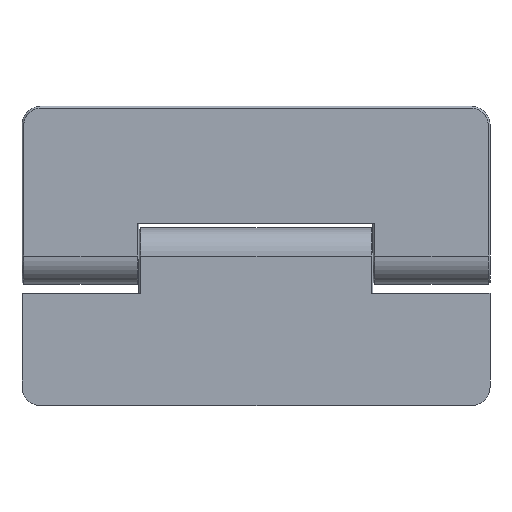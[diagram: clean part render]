
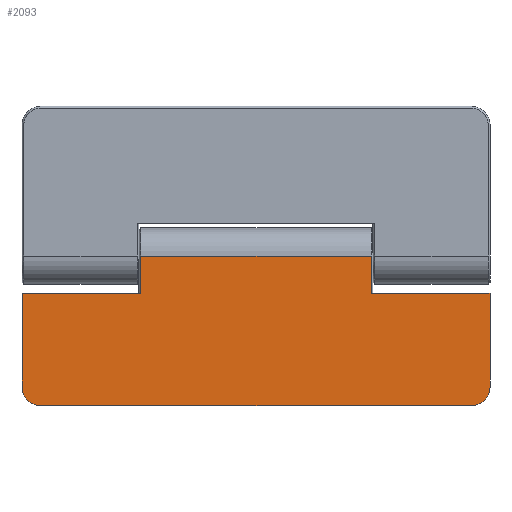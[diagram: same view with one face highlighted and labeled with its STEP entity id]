
A CAD part, front view. The second image highlights one B-rep face of the part: STEP entity #2093.
In plain terms, the highlighted planar face has unit normal (0, -1, 0).
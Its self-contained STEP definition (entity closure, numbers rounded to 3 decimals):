
#31 = ORIENTED_EDGE ( 'NONE', *, *, #1841, .F. ) ;
#86 = CARTESIAN_POINT ( 'NONE',  ( -25., -3., -14. ) ) ;
#87 = ORIENTED_EDGE ( 'NONE', *, *, #1325, .F. ) ;
#89 = DIRECTION ( 'NONE',  ( 0., 0., -1. ) ) ;
#95 = EDGE_CURVE ( 'NONE', #176, #1191, #1238, .T. ) ;
#118 = CARTESIAN_POINT ( 'NONE',  ( -23., -3., -16. ) ) ;
#120 = DIRECTION ( 'NONE',  ( 1., 0., 0. ) ) ;
#167 = DIRECTION ( 'NONE',  ( 0., -1., 0. ) ) ;
#172 = VERTEX_POINT ( 'NONE', #707 ) ;
#175 = CIRCLE ( 'NONE', #316, 2. ) ;
#176 = VERTEX_POINT ( 'NONE', #118 ) ;
#186 = EDGE_CURVE ( 'NONE', #172, #782, #2469, .T. ) ;
#190 = ORIENTED_EDGE ( 'NONE', *, *, #95, .F. ) ;
#227 = FACE_OUTER_BOUND ( 'NONE', #2339, .T. ) ;
#261 = ORIENTED_EDGE ( 'NONE', *, *, #2487, .T. ) ;
#264 = DIRECTION ( 'NONE',  ( 0., 1., 0. ) ) ;
#269 = CARTESIAN_POINT ( 'NONE',  ( -12.3, -3., -4. ) ) ;
#305 = DIRECTION ( 'NONE',  ( -1., 0., 0. ) ) ;
#316 = AXIS2_PLACEMENT_3D ( 'NONE', #2377, #264, #1431 ) ;
#323 = AXIS2_PLACEMENT_3D ( 'NONE', #757, #167, #1502 ) ;
#389 = DIRECTION ( 'NONE',  ( 1., 0., 0. ) ) ;
#463 = ORIENTED_EDGE ( 'NONE', *, *, #698, .T. ) ;
#473 = VECTOR ( 'NONE', #89, 1000. ) ;
#494 = VERTEX_POINT ( 'NONE', #1329 ) ;
#513 = VECTOR ( 'NONE', #1621, 1000. ) ;
#571 = VERTEX_POINT ( 'NONE', #2311 ) ;
#594 = VECTOR ( 'NONE', #305, 1000. ) ;
#608 = VERTEX_POINT ( 'NONE', #762 ) ;
#628 = CARTESIAN_POINT ( 'NONE',  ( -12.3, -3., -4. ) ) ;
#682 = LINE ( 'NONE', #2398, #594 ) ;
#683 = CARTESIAN_POINT ( 'NONE',  ( 25., -3., -14. ) ) ;
#698 = EDGE_CURVE ( 'NONE', #814, #571, #2028, .T. ) ;
#707 = CARTESIAN_POINT ( 'NONE',  ( -25., -3., -4. ) ) ;
#712 = EDGE_CURVE ( 'NONE', #870, #571, #1867, .T. ) ;
#757 = CARTESIAN_POINT ( 'NONE',  ( -23., -3., -14. ) ) ;
#762 = CARTESIAN_POINT ( 'NONE',  ( 25., -3., -4. ) ) ;
#782 = VERTEX_POINT ( 'NONE', #628 ) ;
#814 = VERTEX_POINT ( 'NONE', #2344 ) ;
#820 = LINE ( 'NONE', #269, #473 ) ;
#870 = VERTEX_POINT ( 'NONE', #954 ) ;
#886 = LINE ( 'NONE', #683, #513 ) ;
#922 = ORIENTED_EDGE ( 'NONE', *, *, #1276, .F. ) ;
#954 = CARTESIAN_POINT ( 'NONE',  ( -12.3, -3., 0. ) ) ;
#1003 = VECTOR ( 'NONE', #120, 1000. ) ;
#1048 = ORIENTED_EDGE ( 'NONE', *, *, #186, .F. ) ;
#1063 = DIRECTION ( 'NONE',  ( 0., 0., -1. ) ) ;
#1183 = CARTESIAN_POINT ( 'NONE',  ( 23., -3., -16. ) ) ;
#1191 = VERTEX_POINT ( 'NONE', #86 ) ;
#1238 = CIRCLE ( 'NONE', #1257, 2. ) ;
#1257 = AXIS2_PLACEMENT_3D ( 'NONE', #1852, #2257, #1063 ) ;
#1276 = EDGE_CURVE ( 'NONE', #494, #1622, #175, .T. ) ;
#1314 = LINE ( 'NONE', #1806, #2447 ) ;
#1325 = EDGE_CURVE ( 'NONE', #1622, #176, #682, .T. ) ;
#1329 = CARTESIAN_POINT ( 'NONE',  ( 25., -3., -14. ) ) ;
#1337 = CARTESIAN_POINT ( 'NONE',  ( 12.5, -3., 0. ) ) ;
#1431 = DIRECTION ( 'NONE',  ( 0., 0., -1. ) ) ;
#1502 = DIRECTION ( 'NONE',  ( 0., 0., -1. ) ) ;
#1520 = LINE ( 'NONE', #2027, #1003 ) ;
#1621 = DIRECTION ( 'NONE',  ( 0., 0., -1. ) ) ;
#1622 = VERTEX_POINT ( 'NONE', #1183 ) ;
#1624 = VECTOR ( 'NONE', #1658, 1000. ) ;
#1658 = DIRECTION ( 'NONE',  ( 1., 0., 0. ) ) ;
#1733 = CARTESIAN_POINT ( 'NONE',  ( 12.3, -3., -14. ) ) ;
#1801 = VECTOR ( 'NONE', #2488, 1000. ) ;
#1806 = CARTESIAN_POINT ( 'NONE',  ( -25., -3., -4. ) ) ;
#1841 = EDGE_CURVE ( 'NONE', #608, #494, #886, .T. ) ;
#1842 = EDGE_CURVE ( 'NONE', #814, #608, #1520, .T. ) ;
#1851 = ORIENTED_EDGE ( 'NONE', *, *, #2410, .F. ) ;
#1852 = CARTESIAN_POINT ( 'NONE',  ( -23., -3., -14. ) ) ;
#1867 = LINE ( 'NONE', #1337, #2208 ) ;
#1918 = PLANE ( 'NONE',  #323 ) ;
#1998 = DIRECTION ( 'NONE',  ( 0., 0., 1. ) ) ;
#2027 = CARTESIAN_POINT ( 'NONE',  ( 25., -3., -4. ) ) ;
#2028 = LINE ( 'NONE', #1733, #1801 ) ;
#2091 = ORIENTED_EDGE ( 'NONE', *, *, #712, .F. ) ;
#2093 = ADVANCED_FACE ( 'NONE', ( #227 ), #1918, .T. ) ;
#2208 = VECTOR ( 'NONE', #389, 1000. ) ;
#2234 = CARTESIAN_POINT ( 'NONE',  ( -12.5, -3., -4. ) ) ;
#2257 = DIRECTION ( 'NONE',  ( 0., 1., 0. ) ) ;
#2311 = CARTESIAN_POINT ( 'NONE',  ( 12.3, -3., 0. ) ) ;
#2339 = EDGE_LOOP ( 'NONE', ( #2452, #463, #2091, #261, #1048, #1851, #190, #87, #922, #31 ) ) ;
#2344 = CARTESIAN_POINT ( 'NONE',  ( 12.3, -3., -4. ) ) ;
#2377 = CARTESIAN_POINT ( 'NONE',  ( 23., -3., -14. ) ) ;
#2398 = CARTESIAN_POINT ( 'NONE',  ( -23., -3., -16. ) ) ;
#2410 = EDGE_CURVE ( 'NONE', #1191, #172, #1314, .T. ) ;
#2447 = VECTOR ( 'NONE', #1998, 1000. ) ;
#2452 = ORIENTED_EDGE ( 'NONE', *, *, #1842, .F. ) ;
#2469 = LINE ( 'NONE', #2234, #1624 ) ;
#2487 = EDGE_CURVE ( 'NONE', #870, #782, #820, .T. ) ;
#2488 = DIRECTION ( 'NONE',  ( 0., 0., 1. ) ) ;
